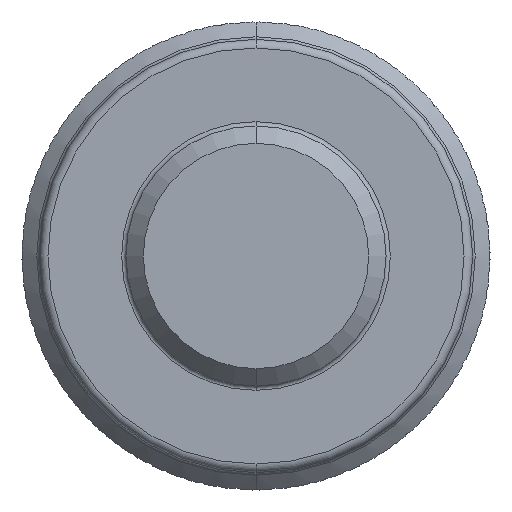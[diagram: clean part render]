
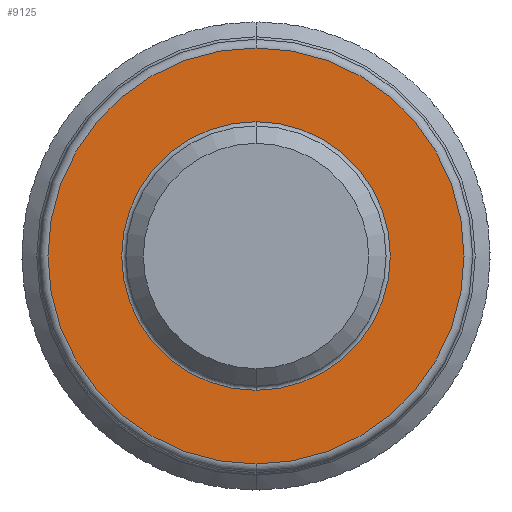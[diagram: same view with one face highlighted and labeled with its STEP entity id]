
A CAD part, front view. The second image highlights one B-rep face of the part: STEP entity #9125.
In plain terms, the highlighted planar face has unit normal (0, -1, 0).
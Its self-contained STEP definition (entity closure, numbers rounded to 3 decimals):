
#207 = CARTESIAN_POINT ( 'NONE',  ( 1.5, -3., 0. ) ) ;
#480 = DIRECTION ( 'NONE',  ( 0., -1., 0. ) ) ;
#815 = DIRECTION ( 'NONE',  ( 0., 0., -1. ) ) ;
#967 = FACE_OUTER_BOUND ( 'NONE', #2642, .T. ) ;
#1185 = DIRECTION ( 'NONE',  ( 0., 0., -1. ) ) ;
#1535 = ORIENTED_EDGE ( 'NONE', *, *, #4999, .T. ) ;
#1973 = CARTESIAN_POINT ( 'NONE',  ( 0., -3., 0. ) ) ;
#2407 = DIRECTION ( 'NONE',  ( 0., 1., 0. ) ) ;
#2642 = EDGE_LOOP ( 'NONE', ( #1535, #9863 ) ) ;
#2744 = ORIENTED_EDGE ( 'NONE', *, *, #3345, .T. ) ;
#2748 = VERTEX_POINT ( 'NONE', #9642 ) ;
#3345 = EDGE_CURVE ( 'NONE', #2748, #6909, #4564, .T. ) ;
#3876 = AXIS2_PLACEMENT_3D ( 'NONE', #4881, #7169, #4273 ) ;
#4036 = PLANE ( 'NONE',  #5655 ) ;
#4067 = CARTESIAN_POINT ( 'NONE',  ( 0., -3., 2.4 ) ) ;
#4261 = CIRCLE ( 'NONE', #4752, 2.4 ) ;
#4273 = DIRECTION ( 'NONE',  ( 0., 0., -1. ) ) ;
#4347 = CARTESIAN_POINT ( 'NONE',  ( 0., -3., -2.4 ) ) ;
#4564 = CIRCLE ( 'NONE', #9753, 1.55 ) ;
#4684 = EDGE_LOOP ( 'NONE', ( #9414, #2744 ) ) ;
#4752 = AXIS2_PLACEMENT_3D ( 'NONE', #1973, #480, #1185 ) ;
#4824 = VERTEX_POINT ( 'NONE', #4067 ) ;
#4881 = CARTESIAN_POINT ( 'NONE',  ( 0., -3., 0. ) ) ;
#4927 = DIRECTION ( 'NONE',  ( 0., 0., -1. ) ) ;
#4999 = EDGE_CURVE ( 'NONE', #9868, #4824, #4261, .T. ) ;
#5655 = AXIS2_PLACEMENT_3D ( 'NONE', #207, #8707, #815 ) ;
#6133 = CIRCLE ( 'NONE', #7428, 1.55 ) ;
#6218 = FACE_BOUND ( 'NONE', #4684, .T. ) ;
#6418 = CARTESIAN_POINT ( 'NONE',  ( 0., -3., 0. ) ) ;
#6909 = VERTEX_POINT ( 'NONE', #9454 ) ;
#6978 = DIRECTION ( 'NONE',  ( 0., 0., -1. ) ) ;
#7169 = DIRECTION ( 'NONE',  ( 0., -1., 0. ) ) ;
#7428 = AXIS2_PLACEMENT_3D ( 'NONE', #6418, #2407, #6978 ) ;
#8074 = DIRECTION ( 'NONE',  ( 0., 1., 0. ) ) ;
#8095 = CIRCLE ( 'NONE', #3876, 2.4 ) ;
#8608 = EDGE_CURVE ( 'NONE', #6909, #2748, #6133, .T. ) ;
#8707 = DIRECTION ( 'NONE',  ( 0., -1., 0. ) ) ;
#9125 = ADVANCED_FACE ( 'NONE', ( #6218, #967 ), #4036, .T. ) ;
#9414 = ORIENTED_EDGE ( 'NONE', *, *, #8608, .T. ) ;
#9454 = CARTESIAN_POINT ( 'NONE',  ( 0., -3., -1.55 ) ) ;
#9487 = EDGE_CURVE ( 'NONE', #4824, #9868, #8095, .T. ) ;
#9642 = CARTESIAN_POINT ( 'NONE',  ( 0., -3., 1.55 ) ) ;
#9700 = CARTESIAN_POINT ( 'NONE',  ( 0., -3., 0. ) ) ;
#9753 = AXIS2_PLACEMENT_3D ( 'NONE', #9700, #8074, #4927 ) ;
#9863 = ORIENTED_EDGE ( 'NONE', *, *, #9487, .T. ) ;
#9868 = VERTEX_POINT ( 'NONE', #4347 ) ;
